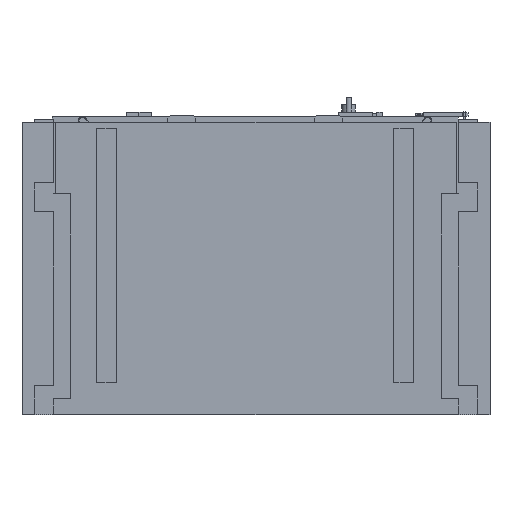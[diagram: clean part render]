
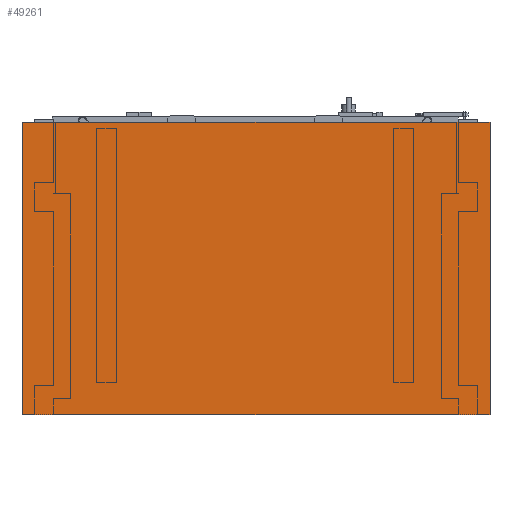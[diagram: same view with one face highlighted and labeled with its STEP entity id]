
A CAD part, front view. The second image highlights one B-rep face of the part: STEP entity #49261.
In plain terms, the highlighted planar face has unit normal (0, -1, 0).
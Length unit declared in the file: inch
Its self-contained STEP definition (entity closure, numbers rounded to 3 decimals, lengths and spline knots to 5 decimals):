
#13568=DIRECTION('',(-1.,0.,0.));
#13569=VECTOR('',#13568,96.);
#13570=CARTESIAN_POINT('',(48.,0.,30.));
#13571=LINE('',#13570,#13569);
#13584=DIRECTION('',(-1.,0.,0.));
#13585=VECTOR('',#13584,96.);
#13586=CARTESIAN_POINT('',(48.,0.,-30.));
#13587=LINE('',#13586,#13585);
#13616=DIRECTION('',(0.,0.,1.));
#13617=VECTOR('',#13616,60.);
#13618=CARTESIAN_POINT('',(-48.,0.,-30.));
#13619=LINE('',#13618,#13617);
#13636=DIRECTION('',(0.,0.,-1.));
#13637=VECTOR('',#13636,60.);
#13638=CARTESIAN_POINT('',(48.,0.,30.));
#13639=LINE('',#13638,#13637);
#28850=CARTESIAN_POINT('',(48.,0.,30.));
#28852=VERTEX_POINT('',#28850);
#28853=CARTESIAN_POINT('',(48.,0.,-30.));
#28854=VERTEX_POINT('',#28853);
#28869=CARTESIAN_POINT('',(-48.,0.,-30.));
#28870=VERTEX_POINT('',#28869);
#28871=CARTESIAN_POINT('',(-48.,0.,30.));
#28872=VERTEX_POINT('',#28871);
#49247=CARTESIAN_POINT('',(0.,0.,0.));
#49248=DIRECTION('',(0.,1.,0.));
#49249=DIRECTION('',(1.,0.,0.));
#49250=AXIS2_PLACEMENT_3D('',#49247,#49248,#49249);
#49251=PLANE('',#49250);
#49253=ORIENTED_EDGE('',*,*,#49252,.T.);
#49255=ORIENTED_EDGE('',*,*,#49254,.T.);
#49256=ORIENTED_EDGE('',*,*,#49233,.F.);
#49258=ORIENTED_EDGE('',*,*,#49257,.T.);
#49259=EDGE_LOOP('',(#49253,#49255,#49256,#49258));
#49260=FACE_OUTER_BOUND('',#49259,.F.);
#49261=ADVANCED_FACE('',(#49260),#49251,.F.);
#49233=EDGE_CURVE('',#28852,#28872,#13571,.T.);
#49252=EDGE_CURVE('',#28854,#28870,#13587,.T.);
#49254=EDGE_CURVE('',#28870,#28872,#13619,.T.);
#49257=EDGE_CURVE('',#28852,#28854,#13639,.T.);
